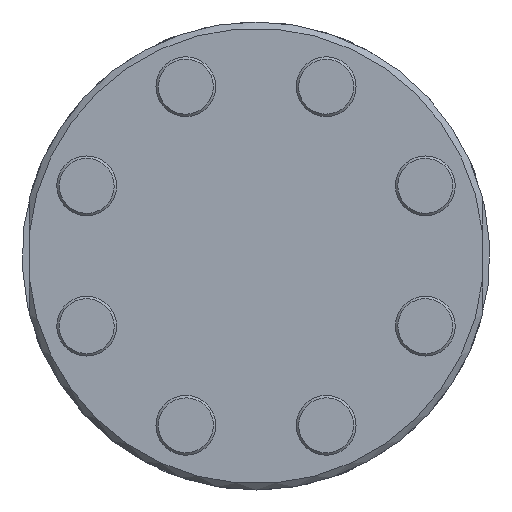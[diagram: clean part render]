
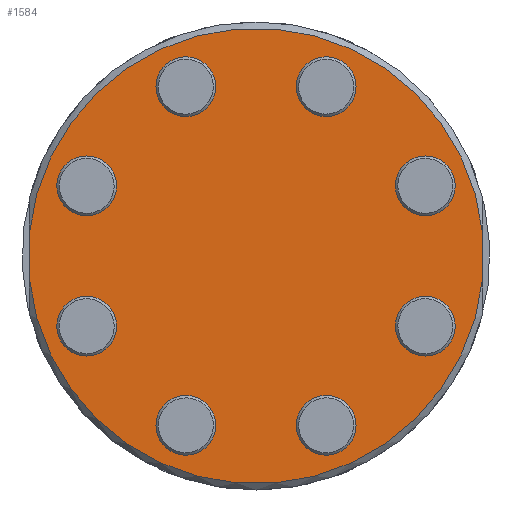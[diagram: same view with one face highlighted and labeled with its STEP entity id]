
A CAD part, front view. The second image highlights one B-rep face of the part: STEP entity #1584.
In plain terms, the highlighted planar face has unit normal (0, -1, 0).
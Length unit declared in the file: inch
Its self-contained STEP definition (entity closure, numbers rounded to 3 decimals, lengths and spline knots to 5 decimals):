
#100=LINE('',#2571,#136);
#102=LINE('',#2586,#138);
#136=VECTOR('',#2036,0.30526);
#138=VECTOR('',#2044,0.30526);
#214=PLANE('',#1730);
#264=FACE_BOUND('',#524,.T.);
#265=FACE_BOUND('',#525,.T.);
#266=FACE_BOUND('',#526,.T.);
#267=FACE_BOUND('',#527,.T.);
#268=FACE_BOUND('',#528,.T.);
#269=FACE_BOUND('',#529,.T.);
#270=FACE_BOUND('',#530,.T.);
#271=FACE_BOUND('',#531,.T.);
#393=FACE_OUTER_BOUND('',#523,.T.);
#523=EDGE_LOOP('',(#1217,#1218,#1219,#1220));
#524=EDGE_LOOP('',(#1221));
#525=EDGE_LOOP('',(#1222));
#526=EDGE_LOOP('',(#1223));
#527=EDGE_LOOP('',(#1224));
#528=EDGE_LOOP('',(#1225));
#529=EDGE_LOOP('',(#1226));
#530=EDGE_LOOP('',(#1227));
#531=EDGE_LOOP('',(#1228));
#711=CIRCLE('',#1676,0.1915);
#713=CIRCLE('',#1679,0.1915);
#715=CIRCLE('',#1682,0.1915);
#717=CIRCLE('',#1685,0.1915);
#719=CIRCLE('',#1688,0.1915);
#721=CIRCLE('',#1691,0.1915);
#723=CIRCLE('',#1694,0.1915);
#725=CIRCLE('',#1697,0.1915);
#741=CIRCLE('',#1731,1.46);
#742=CIRCLE('',#1732,1.46);
#830=VERTEX_POINT('',#2456);
#832=VERTEX_POINT('',#2461);
#834=VERTEX_POINT('',#2466);
#836=VERTEX_POINT('',#2471);
#838=VERTEX_POINT('',#2476);
#840=VERTEX_POINT('',#2481);
#842=VERTEX_POINT('',#2486);
#844=VERTEX_POINT('',#2491);
#865=VERTEX_POINT('',#2552);
#869=VERTEX_POINT('',#2567);
#872=VERTEX_POINT('',#2583);
#873=VERTEX_POINT('',#2585);
#981=EDGE_CURVE('',#830,#830,#711,.T.);
#983=EDGE_CURVE('',#832,#832,#713,.T.);
#985=EDGE_CURVE('',#834,#834,#715,.T.);
#987=EDGE_CURVE('',#836,#836,#717,.T.);
#989=EDGE_CURVE('',#838,#838,#719,.T.);
#991=EDGE_CURVE('',#840,#840,#721,.T.);
#993=EDGE_CURVE('',#842,#842,#723,.T.);
#995=EDGE_CURVE('',#844,#844,#725,.T.);
#1021=EDGE_CURVE('',#865,#869,#100,.T.);
#1025=EDGE_CURVE('',#872,#869,#741,.T.);
#1026=EDGE_CURVE('',#872,#873,#102,.T.);
#1027=EDGE_CURVE('',#865,#873,#742,.T.);
#1217=ORIENTED_EDGE('',*,*,#1021,.T.);
#1218=ORIENTED_EDGE('',*,*,#1025,.F.);
#1219=ORIENTED_EDGE('',*,*,#1026,.T.);
#1220=ORIENTED_EDGE('',*,*,#1027,.F.);
#1221=ORIENTED_EDGE('',*,*,#981,.T.);
#1222=ORIENTED_EDGE('',*,*,#983,.T.);
#1223=ORIENTED_EDGE('',*,*,#985,.T.);
#1224=ORIENTED_EDGE('',*,*,#987,.T.);
#1225=ORIENTED_EDGE('',*,*,#989,.T.);
#1226=ORIENTED_EDGE('',*,*,#991,.T.);
#1227=ORIENTED_EDGE('',*,*,#993,.T.);
#1228=ORIENTED_EDGE('',*,*,#995,.T.);
#1584=ADVANCED_FACE('',(#393,#264,#265,#266,#267,#268,#269,#270,#271),#214,
 .T.);
#1676=AXIS2_PLACEMENT_3D('',#2457,#1926,#1927);
#1679=AXIS2_PLACEMENT_3D('',#2462,#1932,#1933);
#1682=AXIS2_PLACEMENT_3D('',#2467,#1938,#1939);
#1685=AXIS2_PLACEMENT_3D('',#2472,#1944,#1945);
#1688=AXIS2_PLACEMENT_3D('',#2477,#1950,#1951);
#1691=AXIS2_PLACEMENT_3D('',#2482,#1956,#1957);
#1694=AXIS2_PLACEMENT_3D('',#2487,#1962,#1963);
#1697=AXIS2_PLACEMENT_3D('',#2492,#1968,#1969);
#1730=AXIS2_PLACEMENT_3D('',#2582,#2040,#2041);
#1731=AXIS2_PLACEMENT_3D('',#2584,#2042,#2043);
#1732=AXIS2_PLACEMENT_3D('',#2587,#2045,#2046);
#1926=DIRECTION('center_axis',(0.,1.,0.));
#1927=DIRECTION('ref_axis',(1.,0.,0.));
#1932=DIRECTION('center_axis',(0.,1.,0.));
#1933=DIRECTION('ref_axis',(1.,0.,0.));
#1938=DIRECTION('center_axis',(0.,1.,0.));
#1939=DIRECTION('ref_axis',(1.,0.,0.));
#1944=DIRECTION('center_axis',(0.,1.,0.));
#1945=DIRECTION('ref_axis',(1.,0.,0.));
#1950=DIRECTION('center_axis',(0.,1.,0.));
#1951=DIRECTION('ref_axis',(1.,0.,0.));
#1956=DIRECTION('center_axis',(0.,1.,0.));
#1957=DIRECTION('ref_axis',(1.,0.,0.));
#1962=DIRECTION('center_axis',(0.,1.,0.));
#1963=DIRECTION('ref_axis',(1.,0.,0.));
#1968=DIRECTION('center_axis',(0.,1.,0.));
#1969=DIRECTION('ref_axis',(1.,0.,0.));
#2036=DIRECTION('',(0.,0.,1.));
#2040=DIRECTION('center_axis',(0.,-1.,0.));
#2041=DIRECTION('ref_axis',(0.,0.,-1.));
#2042=DIRECTION('center_axis',(0.,1.,0.));
#2043=DIRECTION('ref_axis',(1.,0.,0.));
#2044=DIRECTION('',(0.,0.,-1.));
#2045=DIRECTION('center_axis',(0.,1.,0.));
#2046=DIRECTION('ref_axis',(1.,0.,0.));
#2456=CARTESIAN_POINT('',(-0.64115,-0.45,-1.08556));
#2457=CARTESIAN_POINT('Origin',(-0.44965,-0.45,-1.08556));
#2461=CARTESIAN_POINT('',(0.25815,-0.45,-1.08556));
#2462=CARTESIAN_POINT('Origin',(0.44965,-0.45,-1.08556));
#2466=CARTESIAN_POINT('',(0.89406,-0.45,-0.44965));
#2467=CARTESIAN_POINT('Origin',(1.08556,-0.45,-0.44965));
#2471=CARTESIAN_POINT('',(0.89406,-0.45,0.44965));
#2472=CARTESIAN_POINT('Origin',(1.08556,-0.45,0.44965));
#2476=CARTESIAN_POINT('',(0.25815,-0.45,1.08556));
#2477=CARTESIAN_POINT('Origin',(0.44965,-0.45,1.08556));
#2481=CARTESIAN_POINT('',(-0.64115,-0.45,1.08556));
#2482=CARTESIAN_POINT('Origin',(-0.44965,-0.45,1.08556));
#2486=CARTESIAN_POINT('',(-1.27706,-0.45,0.44965));
#2487=CARTESIAN_POINT('Origin',(-1.08556,-0.45,0.44965));
#2491=CARTESIAN_POINT('',(-1.27706,-0.45,-0.44965));
#2492=CARTESIAN_POINT('Origin',(-1.08556,-0.45,-0.44965));
#2552=CARTESIAN_POINT('',(1.452,-0.45,-0.15263));
#2567=CARTESIAN_POINT('',(1.452,-0.45,0.15263));
#2571=CARTESIAN_POINT('',(1.452,-0.45,0.));
#2582=CARTESIAN_POINT('Origin',(0.,-0.45,0.));
#2583=CARTESIAN_POINT('',(-1.452,-0.45,0.15263));
#2584=CARTESIAN_POINT('Origin',(0.,-0.45,0.));
#2585=CARTESIAN_POINT('',(-1.452,-0.45,-0.15263));
#2586=CARTESIAN_POINT('',(-1.452,-0.45,0.));
#2587=CARTESIAN_POINT('Origin',(0.,-0.45,0.));
